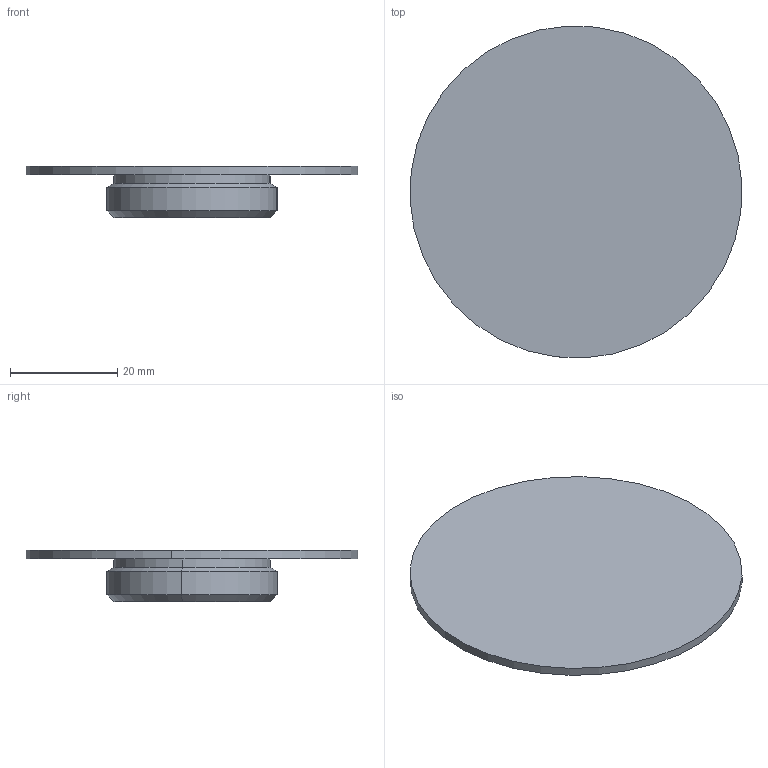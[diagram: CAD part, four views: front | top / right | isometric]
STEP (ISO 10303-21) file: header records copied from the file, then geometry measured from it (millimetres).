
FILE_DESCRIPTION (( 'STEP AP214' ), '1' );
FILE_NAME ('CAP STUDENTS_REV A.STEP', '2019-09-19T01:38:28', ( 'HP z420' ), ( '' ), 'SwSTEP 2.0', 'SolidWorks 2018', '' );
FILE_SCHEMA (( 'AUTOMOTIVE_DESIGN' ));
Length unit declared in the file: inch
Products named in the file (2): Cap; CAP STUDENTS_REV A
Assembly tree (1 placements, depth 2):
  CAP STUDENTS_REV A
    Cap
Bounding box: 61.83 x 61.83 x 9.53 mm (x, y, z)
Volume: 8756.2 mm3; surface area: 7639.6 mm2
Topology: 1 solids, 1 shells, 16 faces, 30 edges, 18 vertices
Faces by surface type: cylinder 8, cone 4, plane 4
Entity records: 478 total; most frequent: DIRECTION 88, CARTESIAN_POINT 68, ORIENTED_EDGE 60, AXIS2_PLACEMENT_3D 38, EDGE_CURVE 30, EDGE_LOOP 18, CIRCLE 18, VERTEX_POINT 18
